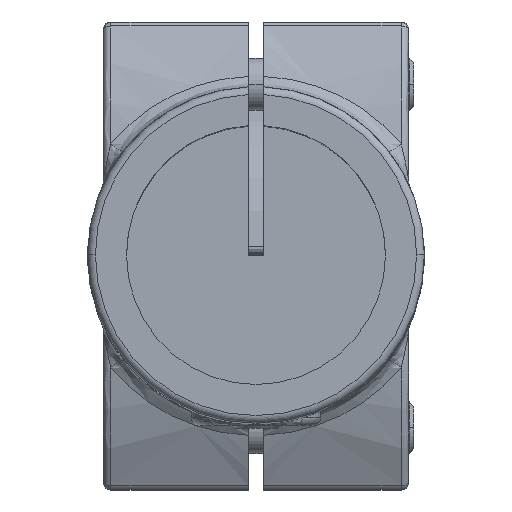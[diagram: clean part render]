
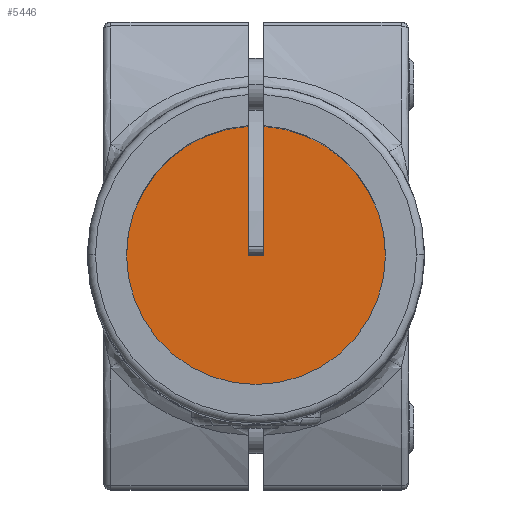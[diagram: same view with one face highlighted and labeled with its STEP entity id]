
A CAD part, top view. The second image highlights one B-rep face of the part: STEP entity #5446.
In plain terms, the highlighted planar face has unit normal (0, 0, 1) as drawn and (0, 0, -1) by its records, which use the part's own axes.
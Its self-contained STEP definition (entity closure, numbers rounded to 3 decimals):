
#133 = CARTESIAN_POINT ( 'NONE',  ( 1.5, 45., 74. ) ) ;
#1311 = ORIENTED_EDGE ( 'NONE', *, *, #4765, .F. ) ;
#1797 = LINE ( 'NONE', #133, #2537 ) ;
#1863 = LINE ( 'NONE', #17098, #6379 ) ;
#2232 = AXIS2_PLACEMENT_3D ( 'NONE', #10729, #3118, #15266 ) ;
#2537 = VECTOR ( 'NONE', #3300, 1000. ) ;
#2615 = DIRECTION ( 'NONE',  ( 0., 0., -1. ) ) ;
#2875 = EDGE_CURVE ( 'NONE', #8085, #3578, #13655, .T. ) ;
#2877 = CIRCLE ( 'NONE', #16227, 25. ) ;
#3118 = DIRECTION ( 'NONE',  ( 0., 0., -1. ) ) ;
#3300 = DIRECTION ( 'NONE',  ( 0., -1., 0. ) ) ;
#3358 = EDGE_LOOP ( 'NONE', ( #13288, #6336, #18607, #10207, #11646, #1311 ) ) ;
#3578 = VERTEX_POINT ( 'NONE', #18732 ) ;
#4765 = EDGE_CURVE ( 'NONE', #12041, #17431, #1797, .T. ) ;
#4927 = EDGE_CURVE ( 'NONE', #11028, #8085, #2877, .T. ) ;
#5446 = ADVANCED_FACE ( 'NONE', ( #6152 ), #18235, .T. ) ;
#5810 = CARTESIAN_POINT ( 'NONE',  ( 0., 0., 74. ) ) ;
#6152 = FACE_OUTER_BOUND ( 'NONE', #3358, .T. ) ;
#6336 = ORIENTED_EDGE ( 'NONE', *, *, #4927, .T. ) ;
#6379 = VECTOR ( 'NONE', #14568, 1000. ) ;
#6660 = AXIS2_PLACEMENT_3D ( 'NONE', #5810, #10503, #17804 ) ;
#8085 = VERTEX_POINT ( 'NONE', #16946 ) ;
#8258 = VERTEX_POINT ( 'NONE', #13067 ) ;
#8404 = CIRCLE ( 'NONE', #19501, 25. ) ;
#8616 = CARTESIAN_POINT ( 'NONE',  ( 1.5, 24.955, 74. ) ) ;
#8880 = EDGE_CURVE ( 'NONE', #12041, #11028, #8404, .T. ) ;
#10207 = ORIENTED_EDGE ( 'NONE', *, *, #12925, .T. ) ;
#10503 = DIRECTION ( 'NONE',  ( 0., 0., -1. ) ) ;
#10729 = CARTESIAN_POINT ( 'NONE',  ( 0., 0., 74. ) ) ;
#10757 = VECTOR ( 'NONE', #13735, 1000. ) ;
#10766 = DIRECTION ( 'NONE',  ( 0., 0., -1. ) ) ;
#11028 = VERTEX_POINT ( 'NONE', #16475 ) ;
#11646 = ORIENTED_EDGE ( 'NONE', *, *, #18589, .F. ) ;
#12041 = VERTEX_POINT ( 'NONE', #8616 ) ;
#12925 = EDGE_CURVE ( 'NONE', #3578, #8258, #16598, .T. ) ;
#13067 = CARTESIAN_POINT ( 'NONE',  ( -1.5, 0., 74. ) ) ;
#13110 = DIRECTION ( 'NONE',  ( -1., 0., 0. ) ) ;
#13261 = CARTESIAN_POINT ( 'NONE',  ( 0., 0., 74. ) ) ;
#13288 = ORIENTED_EDGE ( 'NONE', *, *, #8880, .T. ) ;
#13655 = CIRCLE ( 'NONE', #6660, 25. ) ;
#13735 = DIRECTION ( 'NONE',  ( 0., -1., 0. ) ) ;
#14568 = DIRECTION ( 'NONE',  ( -1., 0., 0. ) ) ;
#14803 = CARTESIAN_POINT ( 'NONE',  ( -1.5, 45., 74. ) ) ;
#15197 = DIRECTION ( 'NONE',  ( -1., 0., 0. ) ) ;
#15266 = DIRECTION ( 'NONE',  ( -1., 0., 0. ) ) ;
#15725 = CARTESIAN_POINT ( 'NONE',  ( 1.5, 0., 74. ) ) ;
#15961 = CARTESIAN_POINT ( 'NONE',  ( 0., 0., 74. ) ) ;
#16227 = AXIS2_PLACEMENT_3D ( 'NONE', #13261, #10766, #15197 ) ;
#16475 = CARTESIAN_POINT ( 'NONE',  ( 25., 0., 74. ) ) ;
#16598 = LINE ( 'NONE', #14803, #10757 ) ;
#16946 = CARTESIAN_POINT ( 'NONE',  ( -25., 0., 74. ) ) ;
#17098 = CARTESIAN_POINT ( 'NONE',  ( -1.5, 0., 74. ) ) ;
#17431 = VERTEX_POINT ( 'NONE', #15725 ) ;
#17804 = DIRECTION ( 'NONE',  ( -1., 0., 0. ) ) ;
#18235 = PLANE ( 'NONE',  #2232 ) ;
#18589 = EDGE_CURVE ( 'NONE', #17431, #8258, #1863, .T. ) ;
#18607 = ORIENTED_EDGE ( 'NONE', *, *, #2875, .T. ) ;
#18732 = CARTESIAN_POINT ( 'NONE',  ( -1.5, 24.955, 74. ) ) ;
#19501 = AXIS2_PLACEMENT_3D ( 'NONE', #15961, #2615, #13110 ) ;
